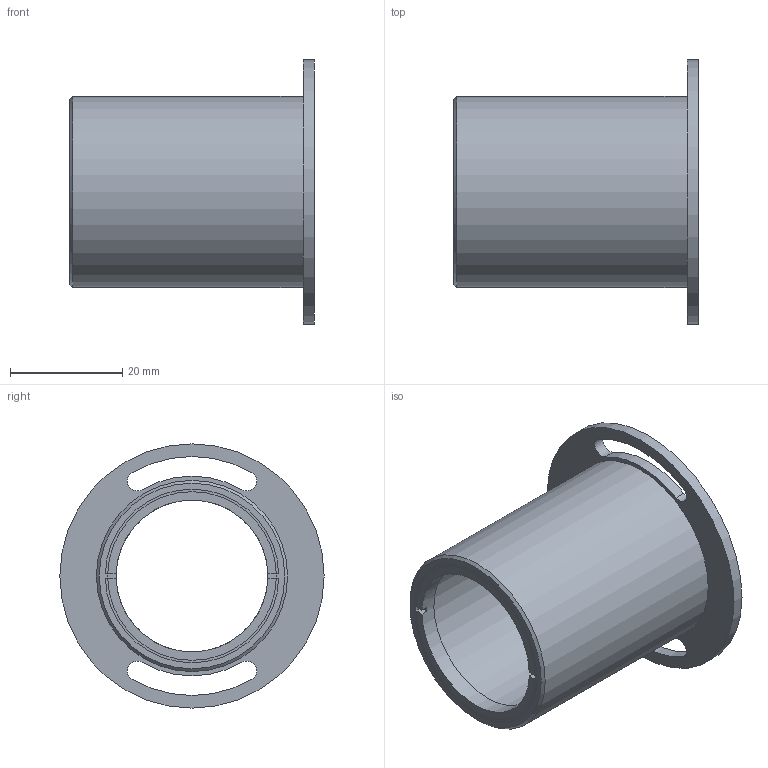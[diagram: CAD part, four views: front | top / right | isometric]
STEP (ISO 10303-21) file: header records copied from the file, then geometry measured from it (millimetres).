
FILE_DESCRIPTION(/* description */ (''),/* implementation_level */ '2;1');
FILE_NAME(/* name */ 'Y:\3DDATA\2_OpticalHard\01_国内製品\2_Holders\GTPC\GTPC-ADP\GTPC-ADP30-39\中間ﾌｨｲﾙ\GTPC-ADP30-39.stp',/* time_stamp */ '2014-07-09T19:03:39+09:00',/* author */ ('t.mukai'),/* organization */ (''),/* preprocessor_version */ 'ST-DEVELOPER v15.2',/* originating_system */ 'Autodesk Inventor 2014',/* authorisation */ '');
FILE_SCHEMA (('AUTOMOTIVE_DESIGN { 1 0 10303 214 3 1 1 }'));
Length unit declared in the file: millimetre
Products named in the file (1): GTPCADP3039-M02-13001-ST01
Bounding box: 43.5 x 47 x 47 mm (x, y, z)
Volume: 10597 mm3; surface area: 11242.1 mm2
Topology: 1 solids, 1 shells, 31 faces, 75 edges, 49 vertices
Faces by surface type: plane 15, cylinder 15, cone 1
Full cylindrical faces by diameter (mm): 27 x2, 30 x1, 34 x1, 47 x1
Entity records: 912 total; most frequent: DIRECTION 170, CARTESIAN_POINT 146, ORIENTED_EDGE 134, AXIS2_PLACEMENT_3D 71, EDGE_CURVE 67, VERTEX_POINT 47, EDGE_LOOP 46, CIRCLE 39
